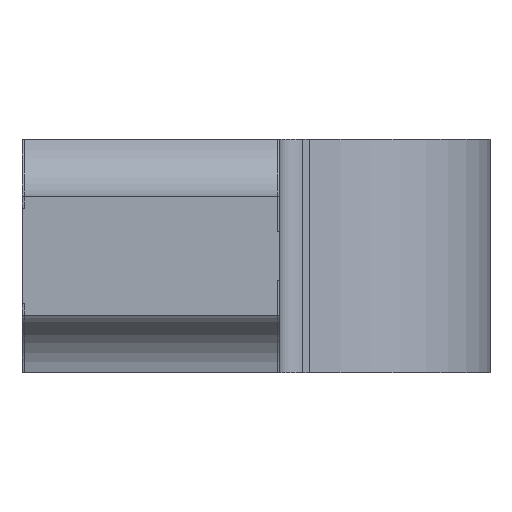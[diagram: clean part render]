
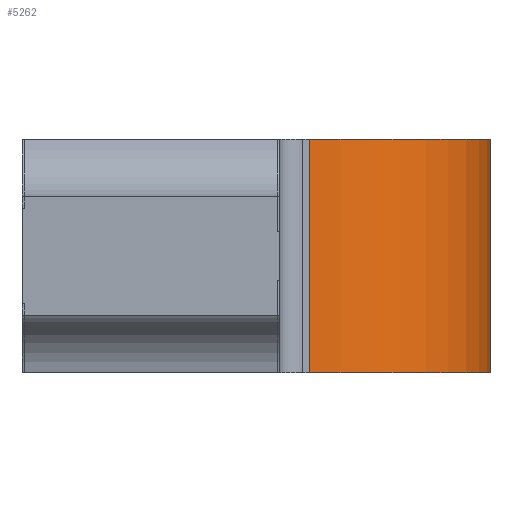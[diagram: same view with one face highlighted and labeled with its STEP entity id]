
A CAD part, left-side view. The second image highlights one B-rep face of the part: STEP entity #5262.
In plain terms, the highlighted cylindrical face has radius 0.8 mm (diameter 1.6 mm), a partial arc.
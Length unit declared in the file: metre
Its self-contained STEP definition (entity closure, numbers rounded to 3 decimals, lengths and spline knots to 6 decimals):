
#213=CYLINDRICAL_SURFACE('',#5739,0.0008);
#685=LINE('',#8831,#1232);
#686=LINE('',#8833,#1233);
#1232=VECTOR('',#6940,1.);
#1233=VECTOR('',#6943,1.);
#2589=ORIENTED_EDGE('',*,*,#3480,.F.);
#2590=ORIENTED_EDGE('',*,*,#3495,.T.);
#2591=ORIENTED_EDGE('',*,*,#3492,.F.);
#2592=ORIENTED_EDGE('',*,*,#3496,.F.);
#3480=EDGE_CURVE('',#4038,#4039,#4253,.F.);
#3492=EDGE_CURVE('',#4050,#4051,#4259,.T.);
#3495=EDGE_CURVE('',#4038,#4051,#685,.T.);
#3496=EDGE_CURVE('',#4039,#4050,#686,.T.);
#4038=VERTEX_POINT('',#8800);
#4039=VERTEX_POINT('',#8802);
#4050=VERTEX_POINT('',#8825);
#4051=VERTEX_POINT('',#8827);
#4253=CIRCLE('',#5730,0.0008);
#4259=CIRCLE('',#5737,0.0008);
#4526=EDGE_LOOP('',(#2589,#2590,#2591,#2592));
#4813=FACE_BOUND('',#4526,.T.);
#5262=ADVANCED_FACE('',(#4813),#213,.T.);
#5730=AXIS2_PLACEMENT_3D('',#8801,#6914,#6915);
#5737=AXIS2_PLACEMENT_3D('',#8826,#6934,#6935);
#5739=AXIS2_PLACEMENT_3D('',#8832,#6941,#6942);
#6914=DIRECTION('',(0.,-1.,0.));
#6915=DIRECTION('',(0.,0.,-1.));
#6934=DIRECTION('',(0.,-1.,0.));
#6935=DIRECTION('',(0.,0.,-1.));
#6940=DIRECTION('',(0.,-1.,0.));
#6941=DIRECTION('',(0.,-1.,0.));
#6942=DIRECTION('',(0.,0.,-1.));
#6943=DIRECTION('',(0.,-1.,0.));
#8800=CARTESIAN_POINT('',(0.0002,0.0005,0.002));
#8801=CARTESIAN_POINT('',(0.0002,0.0005,0.0012));
#8802=CARTESIAN_POINT('',(0.000999,0.0005,0.001228));
#8825=CARTESIAN_POINT('',(0.000999,-0.0005,0.001228));
#8826=CARTESIAN_POINT('',(0.0002,-0.0005,0.0012));
#8827=CARTESIAN_POINT('',(0.0002,-0.0005,0.002));
#8831=CARTESIAN_POINT('',(0.0002,0.000502,0.002));
#8832=CARTESIAN_POINT('',(0.0002,0.000502,0.0012));
#8833=CARTESIAN_POINT('',(0.000999,0.000502,0.001228));
